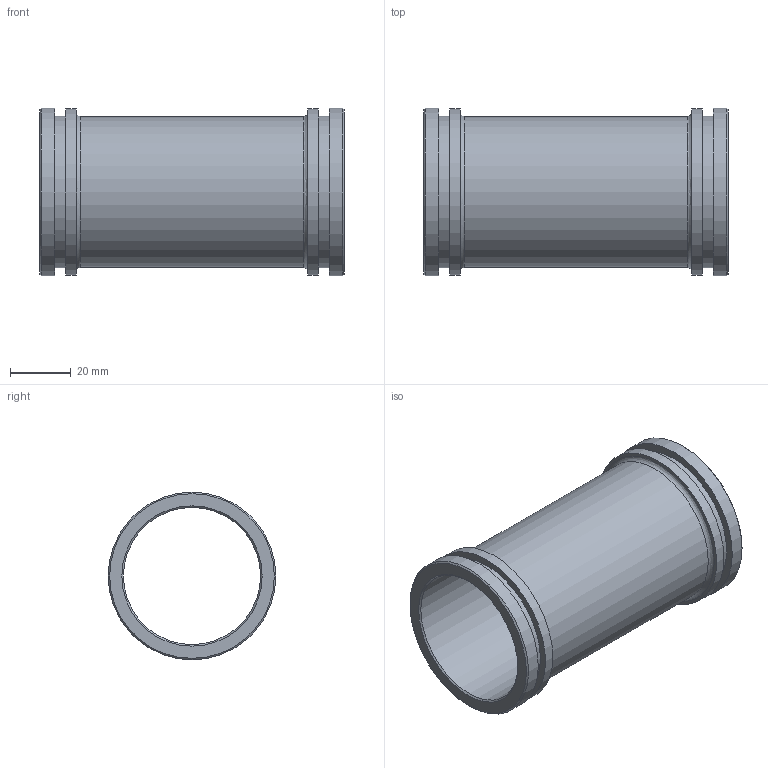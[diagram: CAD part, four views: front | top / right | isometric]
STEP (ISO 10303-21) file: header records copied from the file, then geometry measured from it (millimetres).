
FILE_DESCRIPTION((''),'2;1');
FILE_NAME('N:\CAD\ARCHIV\5350 (-999)\Standardhülsen\5350.045.100\Kundenteil 3D\5350.045.100 für Kunden.stp','2011-08-17T12:16:34',('HWalkhoff'),(''),'Autodesk Inventor 2009','Autodesk Inventor 2009','');
FILE_SCHEMA(('AUTOMOTIVE_DESIGN { 1 0 10303 214 1 1 1 1 }'));
Length unit declared in the file: millimetre
Products named in the file (1): 5350.045.100 für Kunden
Bounding box: 100 x 55 x 55 mm (x, y, z)
Volume: 40874 mm3; surface area: 33629.8 mm2
Topology: 1 solids, 1 shells, 22 faces, 36 edges, 22 vertices
Faces by surface type: cylinder 8, plane 8, cone 4, bspline 2
Full cylindrical faces by diameter (mm): 45 x1, 49.5 x1, 49.76 x2, 54.5 x2, 55 x2
Entity records: 554 total; most frequent: CARTESIAN_POINT 155, DIRECTION 86, ORIENTED_EDGE 44, EDGE_LOOP 44, AXIS2_PLACEMENT_3D 43, VERTEX_POINT 22, CIRCLE 22, EDGE_CURVE 22
